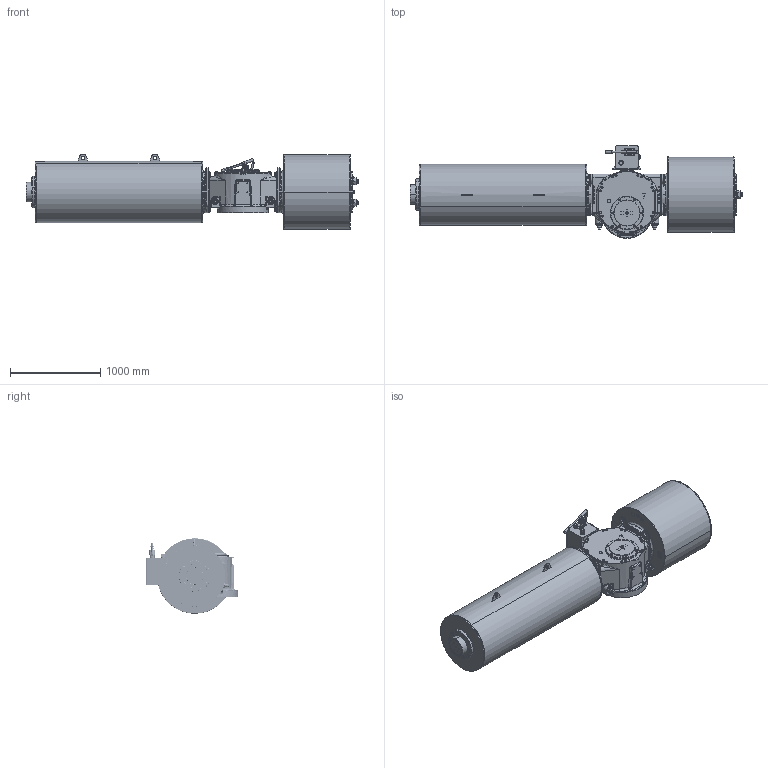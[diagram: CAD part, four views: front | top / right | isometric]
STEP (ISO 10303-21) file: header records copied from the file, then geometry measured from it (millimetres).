
FILE_DESCRIPTION (( 'STEP AP203' ), '1' );
FILE_NAME ('VTS7-800-SR-MH-FO.STEP', '2023-01-01T10:13:43', ( '' ), ( '' ), 'SwSTEP 2.0', 'SolidWorks 2020', '' );
FILE_SCHEMA (( 'CONFIG_CONTROL_DESIGN' ));
Length unit declared in the file: millimetre
Products named in the file (1): VTS7-800-SR-MH-FO
Bounding box: 3688 x 1027 x 839.5 mm (x, y, z)
Volume: 1308557580.6 mm3; surface area: 12938843.6 mm2
Topology: 42 solids, 51 shells, 3949 faces, 9550 edges, 5857 vertices
Faces by surface type: cylinder 1375, plane 1283, cone 882, bspline 378, torus 31
Entity records: 144171 total; most frequent: CARTESIAN_POINT 53725, DIRECTION 19202, ORIENTED_EDGE 18800, EDGE_CURVE 9400, AXIS2_PLACEMENT_3D 7728, VERTEX_POINT 5857, EDGE_LOOP 4385, CIRCLE 4156
